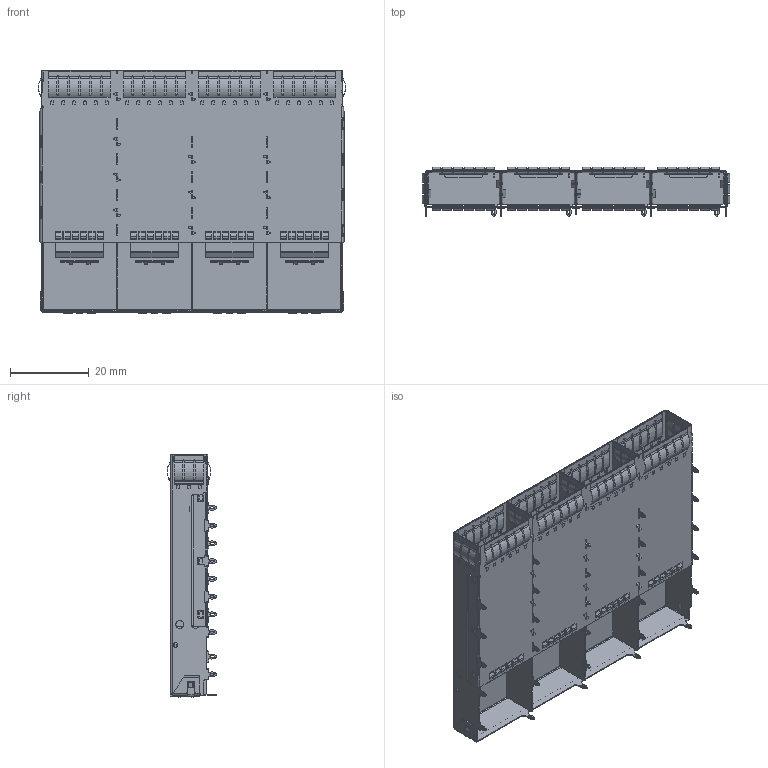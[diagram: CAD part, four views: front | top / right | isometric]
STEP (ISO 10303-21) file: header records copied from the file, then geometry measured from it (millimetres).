
FILE_DESCRIPTION(/* description */ (''),/* implementation_level */ '2;1');
FILE_NAME(/* name */ 'QSFP28 1X4 CAGE 后1脚_3D.stp',/* time_stamp */ '2025-09-19T15:04:21+08:00',/* author */ (''),/* organization */ (''),/* preprocessor_version */ 'ST-DEVELOPER v16.7',/* originating_system */ 'SIEMENS PLM Software NX 1847',/* authorisation */ '');
FILE_SCHEMA (('AUTOMOTIVE_DESIGN { 1 0 10303 214 3 1 1 1 }'));
Products named in the file (1): Admi6A9860F8tpkw
Bounding box: 77.91 x 12.58 x 61.37 mm (x, y, z)
Volume: 4362.2 mm3; surface area: 27116.5 mm2
Topology: 1 solids, 10 shells, 4788 faces, 13923 edges, 9097 vertices
Faces by surface type: plane 2258, cylinder 2188, bspline 284, sphere 58
Entity records: 174352 total; most frequent: CARTESIAN_POINT 45683, ORIENTED_EDGE 27814, DIRECTION 26574, EDGE_CURVE 13907, AXIS2_PLACEMENT_3D 9196, VERTEX_POINT 9097, LINE 8182, VECTOR 8182
